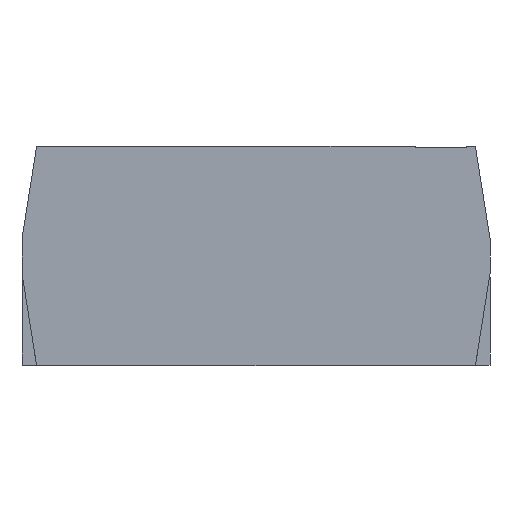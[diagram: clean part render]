
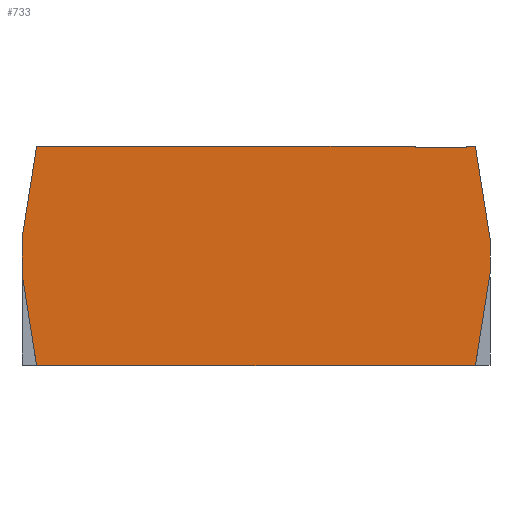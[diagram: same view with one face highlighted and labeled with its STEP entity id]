
A CAD part, front view. The second image highlights one B-rep face of the part: STEP entity #733.
In plain terms, the highlighted planar face has unit normal (0, -1, 0).
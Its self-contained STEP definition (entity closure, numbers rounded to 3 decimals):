
#1 = DIRECTION ( 'NONE',  ( 1., 0., 0. ) ) ;
#6 = VECTOR ( 'NONE', #136, 1000. ) ;
#14 = CARTESIAN_POINT ( 'NONE',  ( -1.6, -0.8, 0. ) ) ;
#21 = DIRECTION ( 'NONE',  ( -0.156, 0., 0.988 ) ) ;
#24 = CARTESIAN_POINT ( 'NONE',  ( -1.6, -0.8, 1.5 ) ) ;
#25 = VERTEX_POINT ( 'NONE', #296 ) ;
#34 = CARTESIAN_POINT ( 'NONE',  ( 1.438, -0.8, 1.49 ) ) ;
#40 = EDGE_CURVE ( 'NONE', #107, #25, #391, .T. ) ;
#52 = CARTESIAN_POINT ( 'NONE',  ( -1.6, -0.8, 1.5 ) ) ;
#71 = ORIENTED_EDGE ( 'NONE', *, *, #742, .T. ) ;
#76 = DIRECTION ( 'NONE',  ( 0.156, 0., 0.988 ) ) ;
#79 = EDGE_CURVE ( 'NONE', #323, #320, #337, .T. ) ;
#84 = VECTOR ( 'NONE', #76, 1000. ) ;
#85 = CARTESIAN_POINT ( 'NONE',  ( 1.5, -0.8, 1.5 ) ) ;
#88 = FACE_OUTER_BOUND ( 'NONE', #770, .T. ) ;
#91 = LINE ( 'NONE', #325, #266 ) ;
#95 = CARTESIAN_POINT ( 'NONE',  ( 1.5, -0.8, 0. ) ) ;
#107 = VERTEX_POINT ( 'NONE', #540 ) ;
#108 = DIRECTION ( 'NONE',  ( 0.156, 0., -0.988 ) ) ;
#133 = LINE ( 'NONE', #14, #652 ) ;
#136 = DIRECTION ( 'NONE',  ( 1., 0., 0. ) ) ;
#141 = VERTEX_POINT ( 'NONE', #318 ) ;
#146 = VERTEX_POINT ( 'NONE', #202 ) ;
#159 = LINE ( 'NONE', #340, #303 ) ;
#163 = VERTEX_POINT ( 'NONE', #513 ) ;
#170 = ORIENTED_EDGE ( 'NONE', *, *, #491, .T. ) ;
#178 = DIRECTION ( 'NONE',  ( 0., 0., 1. ) ) ;
#180 = EDGE_CURVE ( 'NONE', #720, #323, #381, .T. ) ;
#181 = LINE ( 'NONE', #293, #254 ) ;
#194 = VECTOR ( 'NONE', #252, 1000. ) ;
#202 = CARTESIAN_POINT ( 'NONE',  ( 1.5, -0.8, 1.5 ) ) ;
#204 = CARTESIAN_POINT ( 'NONE',  ( 1.6, -0.8, 0.631 ) ) ;
#205 = ORIENTED_EDGE ( 'NONE', *, *, #604, .T. ) ;
#209 = DIRECTION ( 'NONE',  ( 0., 1., 0. ) ) ;
#221 = VECTOR ( 'NONE', #21, 1000. ) ;
#222 = ORIENTED_EDGE ( 'NONE', *, *, #40, .F. ) ;
#230 = VERTEX_POINT ( 'NONE', #95 ) ;
#232 = ORIENTED_EDGE ( 'NONE', *, *, #614, .T. ) ;
#238 = DIRECTION ( 'NONE',  ( -0.156, 0., -0.988 ) ) ;
#252 = DIRECTION ( 'NONE',  ( 1., 0., 0. ) ) ;
#254 = VECTOR ( 'NONE', #238, 1000. ) ;
#259 = LINE ( 'NONE', #85, #221 ) ;
#260 = EDGE_CURVE ( 'NONE', #720, #25, #91, .T. ) ;
#265 = DIRECTION ( 'NONE',  ( 0., 0., -1. ) ) ;
#266 = VECTOR ( 'NONE', #678, 1000. ) ;
#290 = DIRECTION ( 'NONE',  ( 0., 0., -1. ) ) ;
#293 = CARTESIAN_POINT ( 'NONE',  ( -1.5, -0.8, 1.5 ) ) ;
#296 = CARTESIAN_POINT ( 'NONE',  ( 1.088, -0.8, 1.5 ) ) ;
#300 = VERTEX_POINT ( 'NONE', #603 ) ;
#303 = VECTOR ( 'NONE', #108, 1000. ) ;
#315 = CARTESIAN_POINT ( 'NONE',  ( 1.6, -0.8, 1.5 ) ) ;
#318 = CARTESIAN_POINT ( 'NONE',  ( 1.6, -0.8, 0.869 ) ) ;
#320 = VERTEX_POINT ( 'NONE', #472 ) ;
#323 = VERTEX_POINT ( 'NONE', #721 ) ;
#325 = CARTESIAN_POINT ( 'NONE',  ( 1.088, -0.8, 1.49 ) ) ;
#337 = LINE ( 'NONE', #453, #527 ) ;
#340 = CARTESIAN_POINT ( 'NONE',  ( -1.6, -0.8, 0.631 ) ) ;
#348 = VERTEX_POINT ( 'NONE', #354 ) ;
#354 = CARTESIAN_POINT ( 'NONE',  ( -1.6, -0.8, 0.869 ) ) ;
#361 = EDGE_CURVE ( 'NONE', #107, #348, #181, .T. ) ;
#367 = LINE ( 'NONE', #734, #194 ) ;
#381 = LINE ( 'NONE', #34, #6 ) ;
#391 = LINE ( 'NONE', #414, #651 ) ;
#406 = ORIENTED_EDGE ( 'NONE', *, *, #361, .T. ) ;
#414 = CARTESIAN_POINT ( 'NONE',  ( -1.6, -0.8, 1.5 ) ) ;
#453 = CARTESIAN_POINT ( 'NONE',  ( 1.438, -0.8, 1.49 ) ) ;
#472 = CARTESIAN_POINT ( 'NONE',  ( 1.438, -0.8, 1.5 ) ) ;
#476 = ORIENTED_EDGE ( 'NONE', *, *, #772, .F. ) ;
#482 = ORIENTED_EDGE ( 'NONE', *, *, #747, .T. ) ;
#491 = EDGE_CURVE ( 'NONE', #693, #163, #159, .T. ) ;
#495 = DIRECTION ( 'NONE',  ( 1., 0., 0. ) ) ;
#499 = VECTOR ( 'NONE', #265, 1000. ) ;
#511 = LINE ( 'NONE', #204, #84 ) ;
#513 = CARTESIAN_POINT ( 'NONE',  ( -1.5, -0.8, 0. ) ) ;
#527 = VECTOR ( 'NONE', #178, 1000. ) ;
#540 = CARTESIAN_POINT ( 'NONE',  ( -1.5, -0.8, 1.5 ) ) ;
#552 = LINE ( 'NONE', #52, #688 ) ;
#554 = EDGE_CURVE ( 'NONE', #320, #146, #367, .T. ) ;
#559 = CARTESIAN_POINT ( 'NONE',  ( -1.6, -0.8, 0.631 ) ) ;
#566 = LINE ( 'NONE', #315, #499 ) ;
#573 = AXIS2_PLACEMENT_3D ( 'NONE', #24, #209, #618 ) ;
#579 = ORIENTED_EDGE ( 'NONE', *, *, #79, .F. ) ;
#595 = ORIENTED_EDGE ( 'NONE', *, *, #260, .T. ) ;
#603 = CARTESIAN_POINT ( 'NONE',  ( 1.6, -0.8, 0.631 ) ) ;
#604 = EDGE_CURVE ( 'NONE', #348, #693, #552, .T. ) ;
#614 = EDGE_CURVE ( 'NONE', #163, #230, #133, .T. ) ;
#618 = DIRECTION ( 'NONE',  ( 1., 0., 0. ) ) ;
#651 = VECTOR ( 'NONE', #1, 1000. ) ;
#652 = VECTOR ( 'NONE', #495, 1000. ) ;
#664 = ORIENTED_EDGE ( 'NONE', *, *, #180, .F. ) ;
#678 = DIRECTION ( 'NONE',  ( 0., 0., 1. ) ) ;
#688 = VECTOR ( 'NONE', #290, 1000. ) ;
#693 = VERTEX_POINT ( 'NONE', #559 ) ;
#720 = VERTEX_POINT ( 'NONE', #745 ) ;
#721 = CARTESIAN_POINT ( 'NONE',  ( 1.438, -0.8, 1.49 ) ) ;
#733 = ADVANCED_FACE ( 'NONE', ( #88 ), #741, .F. ) ;
#734 = CARTESIAN_POINT ( 'NONE',  ( -1.6, -0.8, 1.5 ) ) ;
#741 = PLANE ( 'NONE',  #573 ) ;
#742 = EDGE_CURVE ( 'NONE', #141, #146, #259, .T. ) ;
#745 = CARTESIAN_POINT ( 'NONE',  ( 1.088, -0.8, 1.49 ) ) ;
#747 = EDGE_CURVE ( 'NONE', #230, #300, #511, .T. ) ;
#754 = ORIENTED_EDGE ( 'NONE', *, *, #554, .F. ) ;
#770 = EDGE_LOOP ( 'NONE', ( #754, #579, #664, #595, #222, #406, #205, #170, #232, #482, #476, #71 ) ) ;
#772 = EDGE_CURVE ( 'NONE', #141, #300, #566, .T. ) ;
